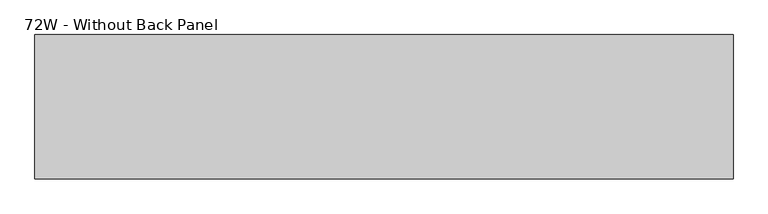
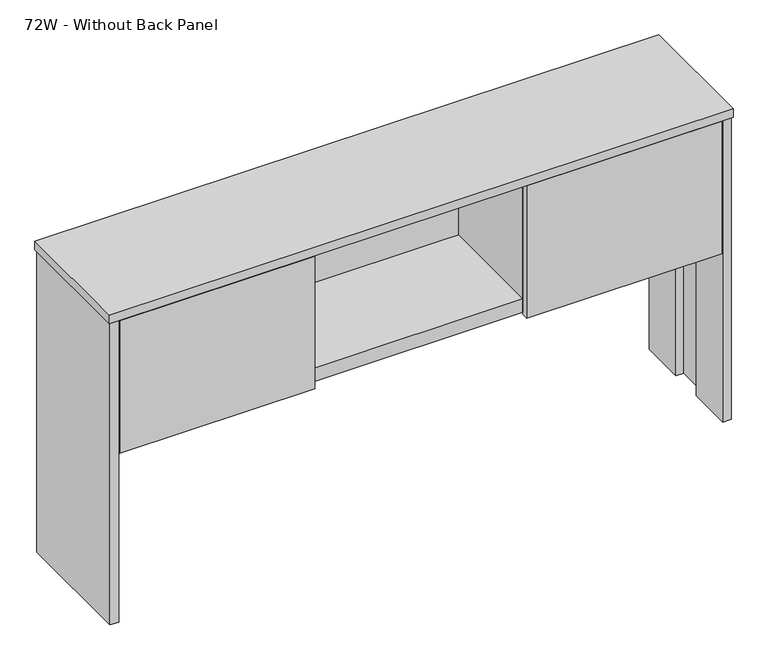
"""IFC4 building model written with IfcOpenShell, lengths in millimetres: furniture geometry, Steelcase - Kick Freestanding - Overhead Storage Cabinet With Hinge Door : 72W - Without Back Panel."""

from ifc_helpers import new_model, si_unit, frame, origin, place, context, project, spatial, polyline, outline, extrude, source, transform, mapped, element, save


def furniture_72w_without_back_panel_935be067(model_context):
    return source(origin(), model_context, "Body", "SweptSolid", [
        extrude(outline(polyline([(606.2138992, -377.8250114), (593.5138992, -377.8250114), (593.5138992, -53.9789719), (606.2138992, -53.9789719), (606.2138992, -377.8250114)])), frame((0.0, 0.0, 1018.943073), z_axis=(0.0, 0.0, 1.0), x_axis=(1.0, 0.0, 0.0)), (0.0, 0.0, 1.0), 403.225),
        extrude(outline(polyline([(1222.1638992, -377.8250114), (1222.1638992, -53.9789719), (1234.8638992, -53.9789719), (1234.8638992, -377.8250114), (1222.1638992, -377.8250114)])), frame((0.0, 0.0, 1018.943073), z_axis=(0.0, 0.0, 1.0), x_axis=(1.0, 0.0, 0.0)), (0.0, 0.0, 1.0), 403.225),
        extrude(outline(polyline([(1790.3618992, -28.5781763), (1815.8872195, -28.5781763), (1815.8872195, -396.8781725), (1790.3618992, -396.8781725), (1790.3618992, -263.5281725), (1812.7122191, -263.5281725), (1812.7122191, -161.9281786), (1790.3618992, -161.9281786), (1790.3618992, -28.5781763)])), frame((0.0, 0.0, 495.068073), z_axis=(0.0, 0.0, 1.0), x_axis=(1.0, 0.0, 0.0)), (0.0, 0.0, 1.0), 927.1),
        extrude(outline(polyline([(1222.1638992, -377.8250114), (1787.3126896, -377.8250114), (1787.3126896, -396.8750114), (1222.1638992, -396.8750114), (1222.1638992, -377.8250114)])), frame((0.0, 0.0, 1012.5930246), z_axis=(0.0, 0.0, 1.0), x_axis=(1.0, 0.0, 0.0)), (0.0, 0.0, 1.0), 406.4000484),
        extrude(outline(polyline([(1222.1639098, -377.8250114), (606.2138992, -377.8250114), (606.2138992, -53.9789719), (1222.1639098, -53.9789719), (1222.1639098, -377.8250114)])), frame((0.0, 0.0, 1018.943073), z_axis=(0.0, 0.0, 1.0), x_axis=(1.0, 0.0, 0.0)), (0.0, 0.0, 1.0), 41.2749516),
        extrude(outline(polyline([(606.2138992, -377.8250114), (606.2138992, -396.8750114), (41.0639007, -396.8750114), (41.0639007, -377.8250114), (606.2138992, -377.8250114)])), frame((0.0, 0.0, 1012.5930246), z_axis=(0.0, 0.0, 1.0), x_axis=(1.0, 0.0, 0.0)), (0.0, 0.0, 1.0), 406.4000484),
        extrude(outline(polyline([(1790.3618992, -53.9789719), (38.0158992, -53.9789719), (38.0158992, -28.5789734), (1790.3618992, -28.5789734), (1790.3618992, -53.9789719)])), frame((0.0, 0.0, 1012.720073), z_axis=(0.0, 0.0, 1.0), x_axis=(1.0, 0.0, 0.0)), (0.0, 0.0, 1.0), 409.448),
        extrude(outline(polyline([(38.0158992, -28.5781763), (38.0158992, -161.9281786), (15.6638988, -161.9281786), (15.6638988, -263.5281725), (38.0158992, -263.5281725), (38.0158992, -396.8781725), (12.4888985, -396.8781725), (12.4888985, -28.5781763), (38.0158992, -28.5781763)])), frame((0.0, 0.0, 495.068073), z_axis=(0.0, 0.0, 1.0), x_axis=(1.0, 0.0, 0.0)), (0.0, 0.0, 1.0), 927.1),
        extrude(outline(polyline([(1819.0638992, -25.4), (1819.0638992, -400.05), (9.3138992, -400.05), (9.3138992, -25.4), (1819.0638992, -25.4)])), frame((0.0, 0.0, 1422.168073), z_axis=(0.0, 0.0, 1.0), x_axis=(1.0, 0.0, 0.0)), (0.0, 0.0, 1.0), 25.4),
    ])


if __name__ == "__main__":
    model = new_model("IFC4")
    model_context = context("Model", 3, world=origin())
    ifc_project = project(units=[si_unit("LENGTHUNIT", "METRE", prefix="MILLI")], contexts=[model_context])
    site = spatial("IfcSite", under=ifc_project)
    building = spatial("IfcBuilding", under=site)
    placement = place(None, origin())
    furniture_72w_without_back_panel_shape = furniture_72w_without_back_panel_935be067(model_context)
    element("IfcFurniture", 1, ObjectType="Steelcase - Kick Freestanding - Overhead Storage Cabinet With Hinge Door : 72W - Without Back Panel", at=placement, inside=building, context=model_context, shape_type="MappedRepresentation", body=[
        mapped(furniture_72w_without_back_panel_shape, transform((0.0, 0.0, 0.0), x_axis=(1.0, 0.0, 0.0), y_axis=(0.0, 1.0, 0.0), z_axis=(0.0, 0.0, 1.0))),
    ])
    save(model, "model.ifc")
